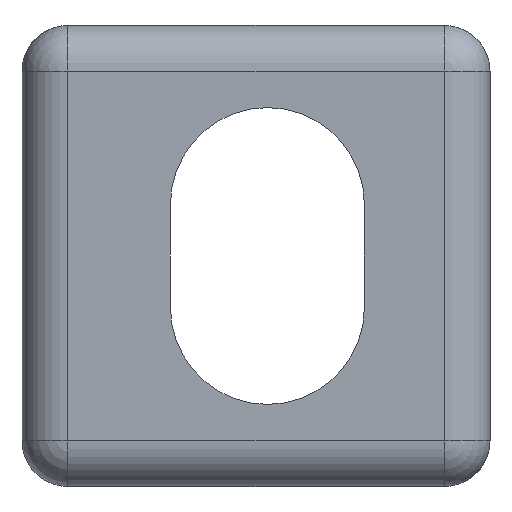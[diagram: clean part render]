
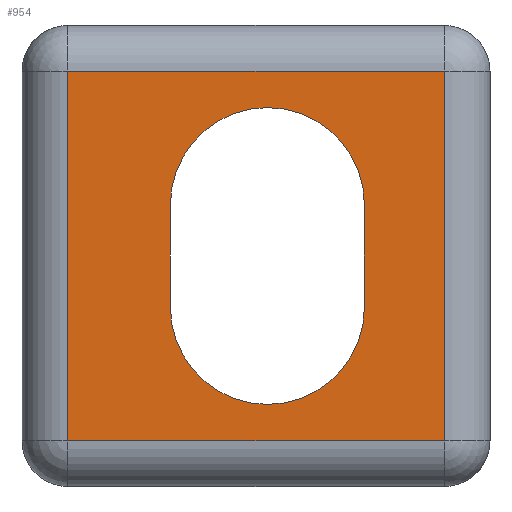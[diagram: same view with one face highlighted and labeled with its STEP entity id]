
A CAD part, left-side view. The second image highlights one B-rep face of the part: STEP entity #954.
In plain terms, the highlighted planar face has unit normal (-1, 0, 0).
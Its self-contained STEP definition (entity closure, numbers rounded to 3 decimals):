
#53=CIRCLE('',#1048,4.25);
#54=CIRCLE('',#1049,4.25);
#66=PLANE('',#1047);
#175=VERTEX_POINT('',#1550);
#176=VERTEX_POINT('',#1552);
#178=VERTEX_POINT('',#1558);
#180=VERTEX_POINT('',#1564);
#182=VERTEX_POINT('',#1583);
#183=VERTEX_POINT('',#1584);
#184=VERTEX_POINT('',#1586);
#185=VERTEX_POINT('',#1588);
#265=VECTOR('',#1260,1.);
#266=VECTOR('',#1267,1.);
#268=VECTOR('',#1277,1.);
#269=VECTOR('',#1292,1.);
#271=VECTOR('',#1305,1.);
#272=VECTOR('',#1308,1.);
#357=LINE('',#1551,#265);
#358=LINE('',#1557,#266);
#360=LINE('',#1566,#268);
#361=LINE('',#1574,#269);
#363=LINE('',#1585,#271);
#364=LINE('',#1589,#272);
#485=EDGE_CURVE('',#175,#176,#357,.T.);
#488=EDGE_CURVE('',#176,#178,#358,.T.);
#493=EDGE_CURVE('',#178,#180,#360,.T.);
#498=EDGE_CURVE('',#180,#175,#361,.T.);
#501=EDGE_CURVE('',#182,#183,#53,.T.);
#502=EDGE_CURVE('',#183,#184,#363,.T.);
#503=EDGE_CURVE('',#184,#185,#54,.T.);
#504=EDGE_CURVE('',#185,#182,#364,.T.);
#734=ORIENTED_EDGE('',*,*,#501,.T.);
#735=ORIENTED_EDGE('',*,*,#502,.T.);
#736=ORIENTED_EDGE('',*,*,#503,.T.);
#737=ORIENTED_EDGE('',*,*,#504,.T.);
#738=ORIENTED_EDGE('',*,*,#485,.F.);
#739=ORIENTED_EDGE('',*,*,#498,.F.);
#740=ORIENTED_EDGE('',*,*,#493,.F.);
#741=ORIENTED_EDGE('',*,*,#488,.F.);
#841=EDGE_LOOP('',(#734,#735,#736,#737));
#842=EDGE_LOOP('',(#738,#739,#740,#741));
#898=FACE_BOUND('',#841,.T.);
#899=FACE_BOUND('',#842,.T.);
#954=ADVANCED_FACE('',(#898,#899),#66,.T.);
#1047=AXIS2_PLACEMENT_3D('',#1581,#1302,$);
#1048=AXIS2_PLACEMENT_3D('',#1582,#1303,#1304);
#1049=AXIS2_PLACEMENT_3D('',#1587,#1306,#1307);
#1260=DIRECTION('',(0.,1.,0.));
#1267=DIRECTION('',(0.,0.,1.));
#1277=DIRECTION('',(0.,-1.,0.));
#1292=DIRECTION('',(0.,0.,-1.));
#1302=DIRECTION('',(-1.,0.,0.));
#1303=DIRECTION('',(1.,0.,0.));
#1304=DIRECTION('',(0.,0.,4.25));
#1305=DIRECTION('',(0.,0.,1.));
#1306=DIRECTION('',(1.,0.,0.));
#1307=DIRECTION('',(0.,0.,4.25));
#1308=DIRECTION('',(0.,0.,-1.));
#1550=CARTESIAN_POINT('',(-24.,-8.5,-8.1));
#1551=CARTESIAN_POINT('',(-24.,2.81,-8.1));
#1552=CARTESIAN_POINT('',(-24.,8.,-8.1));
#1557=CARTESIAN_POINT('',(-24.,8.,-10.1));
#1558=CARTESIAN_POINT('',(-24.,8.,8.1));
#1564=CARTESIAN_POINT('',(-24.,-8.5,8.1));
#1566=CARTESIAN_POINT('',(-24.,2.81,8.1));
#1574=CARTESIAN_POINT('',(-24.,-8.5,-10.1));
#1581=CARTESIAN_POINT('',(-24.,-0.25,-10.1));
#1582=CARTESIAN_POINT('',(-24.,-0.75,-2.25));
#1583=CARTESIAN_POINT('',(-24.,-5.,-2.25));
#1584=CARTESIAN_POINT('',(-24.,3.5,-2.25));
#1585=CARTESIAN_POINT('',(-24.,3.5,-5.05));
#1586=CARTESIAN_POINT('',(-24.,3.5,2.25));
#1587=CARTESIAN_POINT('',(-24.,-0.75,2.25));
#1588=CARTESIAN_POINT('',(-24.,-5.,2.25));
#1589=CARTESIAN_POINT('',(-24.,-5.,-5.05));
